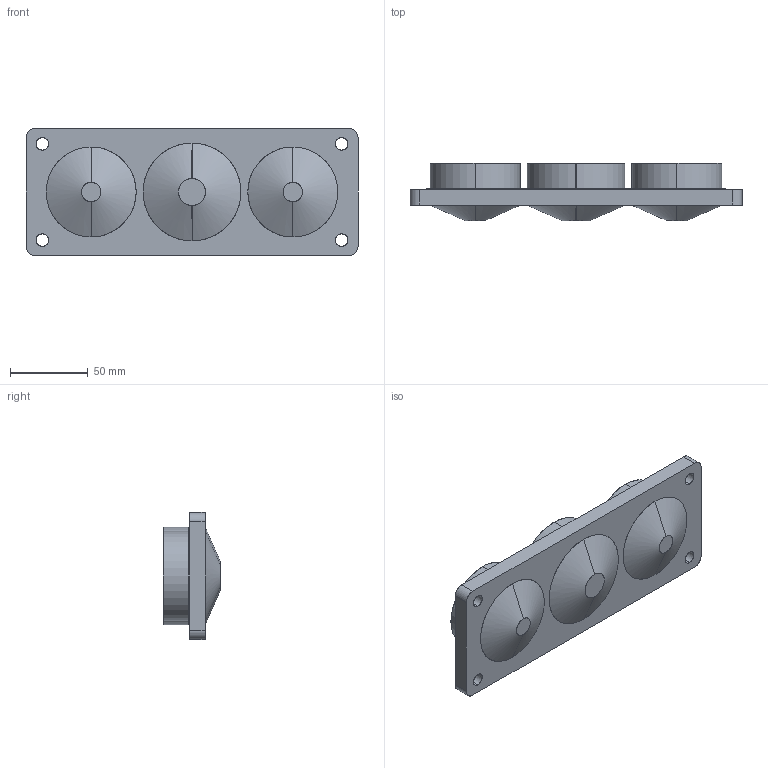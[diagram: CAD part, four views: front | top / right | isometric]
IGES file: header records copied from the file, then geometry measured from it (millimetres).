
Start section: SolidWorks IGES file using analytic representation for surfaces
Global section: file name: C:\Solidworks\omat tuotteet\Space charge models\Multigate\ip65\IGES\100234.IGS; native system: SolidWorks 2012; preprocessor: SolidWorks 2012; author: joni.lehtonen; date: 121210.152645; units: millimetre
Bounding box: 214 x 37.02 x 82 mm (x, y, z)
Surface area: 54499.7 mm2 (no closed solid volume)
Topology: 0 solids, 0 shells, 63 faces, 1768 edges, 1768 vertices
Faces by surface type: revolution 40, bspline 23
